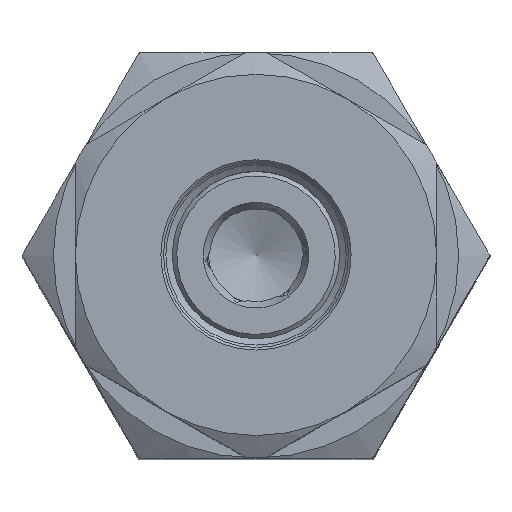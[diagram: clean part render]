
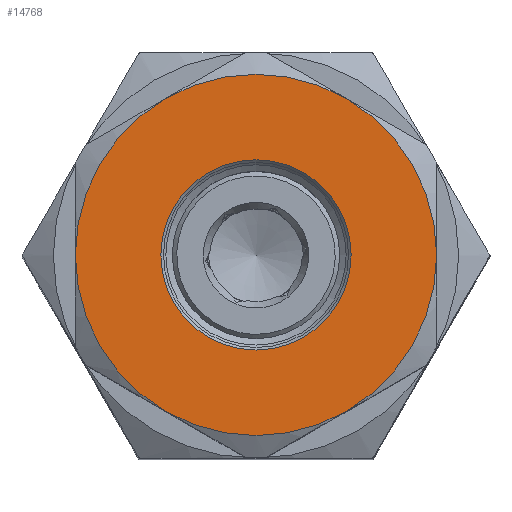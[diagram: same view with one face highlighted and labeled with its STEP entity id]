
A CAD part, top view. The second image highlights one B-rep face of the part: STEP entity #14768.
In plain terms, the highlighted planar face has unit normal (0, 0, 1) as drawn and (-1, 0, 0) by its records, which use the part's own axes.
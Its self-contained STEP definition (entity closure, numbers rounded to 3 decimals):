
#210 = CIRCLE ( 'NONE', #22785, 20.5 ) ;
#380 = CIRCLE ( 'NONE', #5198, 20.5 ) ;
#935 = AXIS2_PLACEMENT_3D ( 'NONE', #7477, #4219, #16477 ) ;
#1235 = ORIENTED_EDGE ( 'NONE', *, *, #13167, .T. ) ;
#1272 = DIRECTION ( 'NONE',  ( -1., 0., 0. ) ) ;
#1293 = PLANE ( 'NONE',  #22246 ) ;
#1653 = ORIENTED_EDGE ( 'NONE', *, *, #8071, .T. ) ;
#1942 = DIRECTION ( 'NONE',  ( 1., 0., 0. ) ) ;
#2390 = DIRECTION ( 'NONE',  ( 0., 0., 1. ) ) ;
#3043 = EDGE_LOOP ( 'NONE', ( #1653 ) ) ;
#3552 = DIRECTION ( 'NONE',  ( 0., 0., 1. ) ) ;
#3887 = ORIENTED_EDGE ( 'NONE', *, *, #16913, .T. ) ;
#4219 = DIRECTION ( 'NONE',  ( -1., 0., 0. ) ) ;
#5198 = AXIS2_PLACEMENT_3D ( 'NONE', #17477, #15503, #22588 ) ;
#5690 = VERTEX_POINT ( 'NONE', #22219 ) ;
#5746 = EDGE_CURVE ( 'NONE', #15658, #16601, #9247, .T. ) ;
#6239 = CARTESIAN_POINT ( 'NONE',  ( 0., -17.754, 10.25 ) ) ;
#6510 = AXIS2_PLACEMENT_3D ( 'NONE', #20599, #18632, #10071 ) ;
#6754 = VERTEX_POINT ( 'NONE', #6239 ) ;
#7028 = CARTESIAN_POINT ( 'NONE',  ( 0., 0., 0. ) ) ;
#7477 = CARTESIAN_POINT ( 'NONE',  ( 0., 0., 0. ) ) ;
#8048 = VERTEX_POINT ( 'NONE', #14647 ) ;
#8071 = EDGE_CURVE ( 'NONE', #20845, #20845, #14131, .T. ) ;
#8126 = DIRECTION ( 'NONE',  ( -1., 0., 0. ) ) ;
#8344 = DIRECTION ( 'NONE',  ( 0., 0., 1. ) ) ;
#9247 = CIRCLE ( 'NONE', #17741, 20.5 ) ;
#9758 = CARTESIAN_POINT ( 'NONE',  ( 0., 17.754, -10.25 ) ) ;
#9903 = DIRECTION ( 'NONE',  ( 0., 0., 1. ) ) ;
#9982 = AXIS2_PLACEMENT_3D ( 'NONE', #15330, #11747, #9903 ) ;
#10071 = DIRECTION ( 'NONE',  ( 0., 0., 1. ) ) ;
#10593 = CIRCLE ( 'NONE', #6510, 20.5 ) ;
#11701 = VERTEX_POINT ( 'NONE', #9758 ) ;
#11747 = DIRECTION ( 'NONE',  ( -1., 0., 0. ) ) ;
#12290 = AXIS2_PLACEMENT_3D ( 'NONE', #18248, #1942, #2390 ) ;
#12813 = EDGE_CURVE ( 'NONE', #16601, #6754, #17748, .T. ) ;
#12877 = CARTESIAN_POINT ( 'NONE',  ( 0., 0., -20.5 ) ) ;
#13167 = EDGE_CURVE ( 'NONE', #6754, #8048, #380, .T. ) ;
#13550 = CARTESIAN_POINT ( 'NONE',  ( 0., 0., 0. ) ) ;
#13649 = CARTESIAN_POINT ( 'NONE',  ( 0., 0., 10.8 ) ) ;
#14069 = DIRECTION ( 'NONE',  ( -1., 0., 0. ) ) ;
#14131 = CIRCLE ( 'NONE', #12290, 10.8 ) ;
#14383 = ORIENTED_EDGE ( 'NONE', *, *, #16912, .T. ) ;
#14647 = CARTESIAN_POINT ( 'NONE',  ( 0., 0., 20.5 ) ) ;
#14768 = ADVANCED_FACE ( 'NONE', ( #15045, #17016 ), #1293, .T. ) ;
#15045 = FACE_BOUND ( 'NONE', #3043, .T. ) ;
#15330 = CARTESIAN_POINT ( 'NONE',  ( 0., 0., 0. ) ) ;
#15503 = DIRECTION ( 'NONE',  ( -1., 0., 0. ) ) ;
#15658 = VERTEX_POINT ( 'NONE', #12877 ) ;
#16156 = ORIENTED_EDGE ( 'NONE', *, *, #5746, .T. ) ;
#16474 = CIRCLE ( 'NONE', #935, 20.5 ) ;
#16477 = DIRECTION ( 'NONE',  ( 0., 0., 1. ) ) ;
#16601 = VERTEX_POINT ( 'NONE', #20615 ) ;
#16912 = EDGE_CURVE ( 'NONE', #8048, #5690, #10593, .T. ) ;
#16913 = EDGE_CURVE ( 'NONE', #11701, #15658, #210, .T. ) ;
#17016 = FACE_OUTER_BOUND ( 'NONE', #17461, .T. ) ;
#17117 = CARTESIAN_POINT ( 'NONE',  ( 0., 0., 0. ) ) ;
#17461 = EDGE_LOOP ( 'NONE', ( #14383, #20990, #3887, #16156, #22734, #1235 ) ) ;
#17477 = CARTESIAN_POINT ( 'NONE',  ( 0., 0., 0. ) ) ;
#17741 = AXIS2_PLACEMENT_3D ( 'NONE', #7028, #14069, #3552 ) ;
#17748 = CIRCLE ( 'NONE', #9982, 20.5 ) ;
#18248 = CARTESIAN_POINT ( 'NONE',  ( 0., 0., 0. ) ) ;
#18360 = EDGE_CURVE ( 'NONE', #5690, #11701, #16474, .T. ) ;
#18632 = DIRECTION ( 'NONE',  ( -1., 0., 0. ) ) ;
#20599 = CARTESIAN_POINT ( 'NONE',  ( 0., 0., 0. ) ) ;
#20615 = CARTESIAN_POINT ( 'NONE',  ( 0., -17.754, -10.25 ) ) ;
#20619 = DIRECTION ( 'NONE',  ( 0., 0., 1. ) ) ;
#20845 = VERTEX_POINT ( 'NONE', #13649 ) ;
#20990 = ORIENTED_EDGE ( 'NONE', *, *, #18360, .T. ) ;
#22219 = CARTESIAN_POINT ( 'NONE',  ( 0., 17.754, 10.25 ) ) ;
#22246 = AXIS2_PLACEMENT_3D ( 'NONE', #13550, #8126, #20619 ) ;
#22588 = DIRECTION ( 'NONE',  ( 0., 0., 1. ) ) ;
#22734 = ORIENTED_EDGE ( 'NONE', *, *, #12813, .T. ) ;
#22785 = AXIS2_PLACEMENT_3D ( 'NONE', #17117, #1272, #8344 ) ;
